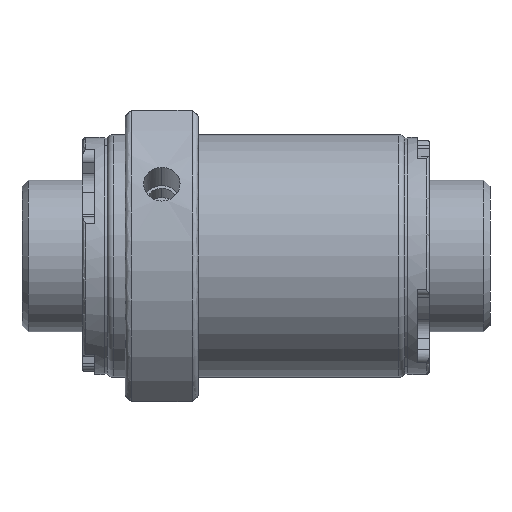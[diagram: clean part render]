
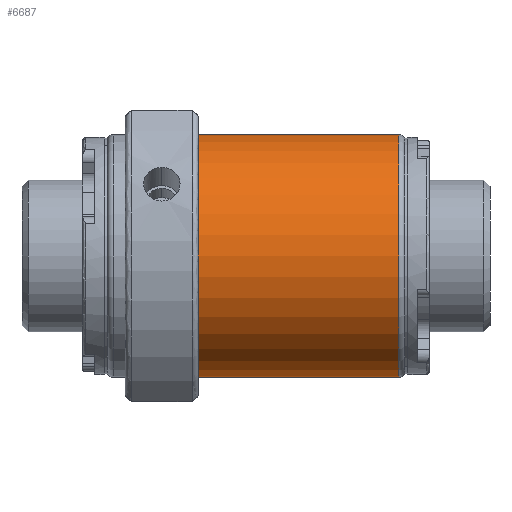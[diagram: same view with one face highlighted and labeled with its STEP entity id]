
A CAD part, front view. The second image highlights one B-rep face of the part: STEP entity #6687.
In plain terms, the highlighted cylindrical face has radius 20 mm (diameter 40 mm), a partial arc.
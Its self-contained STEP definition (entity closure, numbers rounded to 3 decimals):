
#397 = CARTESIAN_POINT ( 'NONE',  ( 0., 0., -20. ) ) ;
#521 = EDGE_CURVE ( 'NONE', #6181, #4394, #3862, .T. ) ;
#566 = VECTOR ( 'NONE', #5265, 1000. ) ;
#804 = AXIS2_PLACEMENT_3D ( 'NONE', #1136, #6006, #6519 ) ;
#1097 = ORIENTED_EDGE ( 'NONE', *, *, #521, .T. ) ;
#1136 = CARTESIAN_POINT ( 'NONE',  ( 0., 0., 0. ) ) ;
#1421 = EDGE_CURVE ( 'NONE', #4394, #1773, #3661, .T. ) ;
#1555 = AXIS2_PLACEMENT_3D ( 'NONE', #2783, #6949, #1570 ) ;
#1570 = DIRECTION ( 'NONE',  ( 0., 0., 1. ) ) ;
#1600 = CARTESIAN_POINT ( 'NONE',  ( 52., 0., -20. ) ) ;
#1691 = AXIS2_PLACEMENT_3D ( 'NONE', #3395, #5240, #7664 ) ;
#1771 = CARTESIAN_POINT ( 'NONE',  ( 19., 0., 20. ) ) ;
#1773 = VERTEX_POINT ( 'NONE', #1771 ) ;
#1853 = CARTESIAN_POINT ( 'NONE',  ( 19., 0., -20. ) ) ;
#2177 = LINE ( 'NONE', #397, #566 ) ;
#2741 = VERTEX_POINT ( 'NONE', #1853 ) ;
#2783 = CARTESIAN_POINT ( 'NONE',  ( 52., 0., 0. ) ) ;
#2834 = ORIENTED_EDGE ( 'NONE', *, *, #1421, .T. ) ;
#3024 = EDGE_CURVE ( 'NONE', #2741, #1773, #7410, .T. ) ;
#3156 = EDGE_LOOP ( 'NONE', ( #7426, #1097, #2834, #5300 ) ) ;
#3395 = CARTESIAN_POINT ( 'NONE',  ( 19., 0., 0. ) ) ;
#3661 = LINE ( 'NONE', #5089, #5253 ) ;
#3862 = CIRCLE ( 'NONE', #1555, 20. ) ;
#4394 = VERTEX_POINT ( 'NONE', #5181 ) ;
#4536 = FACE_OUTER_BOUND ( 'NONE', #3156, .T. ) ;
#5089 = CARTESIAN_POINT ( 'NONE',  ( 0., 0., 20. ) ) ;
#5103 = CYLINDRICAL_SURFACE ( 'NONE', #804, 20. ) ;
#5181 = CARTESIAN_POINT ( 'NONE',  ( 52., 0., 20. ) ) ;
#5240 = DIRECTION ( 'NONE',  ( -1., 0., 0. ) ) ;
#5253 = VECTOR ( 'NONE', #7479, 1000. ) ;
#5265 = DIRECTION ( 'NONE',  ( -1., 0., 0. ) ) ;
#5300 = ORIENTED_EDGE ( 'NONE', *, *, #3024, .F. ) ;
#5637 = EDGE_CURVE ( 'NONE', #6181, #2741, #2177, .T. ) ;
#6006 = DIRECTION ( 'NONE',  ( -1., 0., 0. ) ) ;
#6181 = VERTEX_POINT ( 'NONE', #1600 ) ;
#6519 = DIRECTION ( 'NONE',  ( 0., 0., 1. ) ) ;
#6687 = ADVANCED_FACE ( 'NONE', ( #4536 ), #5103, .T. ) ;
#6949 = DIRECTION ( 'NONE',  ( -1., 0., 0. ) ) ;
#7410 = CIRCLE ( 'NONE', #1691, 20. ) ;
#7426 = ORIENTED_EDGE ( 'NONE', *, *, #5637, .F. ) ;
#7479 = DIRECTION ( 'NONE',  ( -1., 0., 0. ) ) ;
#7664 = DIRECTION ( 'NONE',  ( 0., 0., 1. ) ) ;
